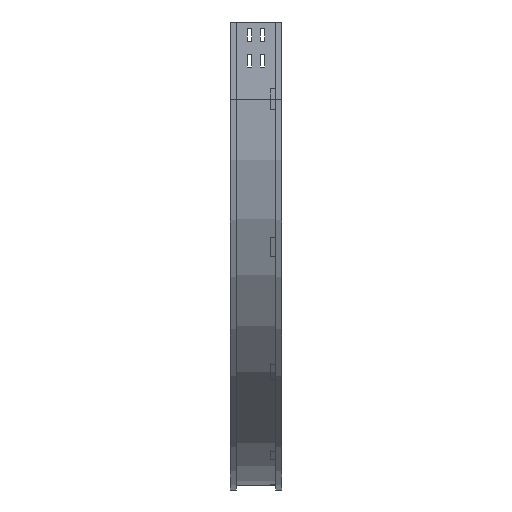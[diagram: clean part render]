
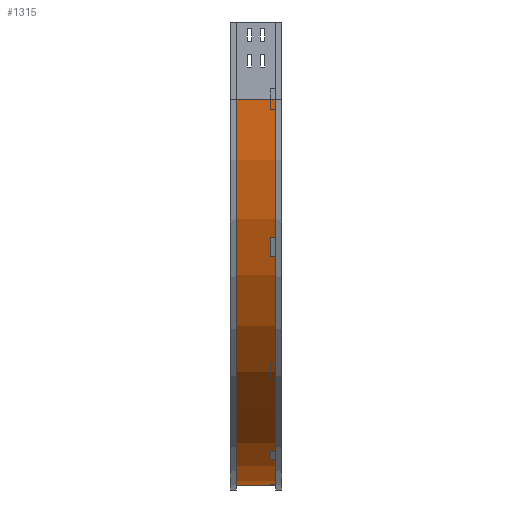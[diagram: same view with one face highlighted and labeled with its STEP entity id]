
A CAD part, left-side view. The second image highlights one B-rep face of the part: STEP entity #1315.
In plain terms, the highlighted cylindrical face has radius 750 mm (diameter 1500 mm), a partial arc.
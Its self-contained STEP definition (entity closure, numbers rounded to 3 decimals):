
#2 = CARTESIAN_POINT ( 'NONE',  ( 759., 12., -900. ) ) ;
#32 = CIRCLE ( 'NONE', #1337, 750. ) ;
#170 = CIRCLE ( 'NONE', #4268, 750. ) ;
#386 = DIRECTION ( 'NONE',  ( 0., -1., 0. ) ) ;
#658 = CARTESIAN_POINT ( 'NONE',  ( 759., 88., -900. ) ) ;
#823 = FACE_OUTER_BOUND ( 'NONE', #1682, .T. ) ;
#966 = ORIENTED_EDGE ( 'NONE', *, *, #1471, .F. ) ;
#1080 = CARTESIAN_POINT ( 'NONE',  ( 759., 12., -900. ) ) ;
#1283 = LINE ( 'NONE', #2681, #4124 ) ;
#1315 = ADVANCED_FACE ( 'NONE', ( #823 ), #1619, .T. ) ;
#1337 = AXIS2_PLACEMENT_3D ( 'NONE', #3323, #1508, #3673 ) ;
#1471 = EDGE_CURVE ( 'NONE', #3747, #4291, #170, .T. ) ;
#1508 = DIRECTION ( 'NONE',  ( 0., -1., 0. ) ) ;
#1593 = DIRECTION ( 'NONE',  ( 0., 0., -1. ) ) ;
#1619 = CYLINDRICAL_SURFACE ( 'NONE', #3918, 750. ) ;
#1653 = CARTESIAN_POINT ( 'NONE',  ( 9., 12., -150. ) ) ;
#1682 = EDGE_LOOP ( 'NONE', ( #966, #2913, #1817, #4229 ) ) ;
#1748 = EDGE_CURVE ( 'NONE', #3289, #3747, #1283, .T. ) ;
#1813 = DIRECTION ( 'NONE',  ( -1., 0., 0. ) ) ;
#1817 = ORIENTED_EDGE ( 'NONE', *, *, #2050, .T. ) ;
#1870 = VECTOR ( 'NONE', #386, 1000. ) ;
#1901 = CARTESIAN_POINT ( 'NONE',  ( 9., 88., -150. ) ) ;
#1993 = DIRECTION ( 'NONE',  ( 0., -1., 0. ) ) ;
#2050 = EDGE_CURVE ( 'NONE', #3289, #2778, #32, .T. ) ;
#2396 = EDGE_CURVE ( 'NONE', #2778, #4291, #4509, .T. ) ;
#2534 = CARTESIAN_POINT ( 'NONE',  ( 759., 12., -150. ) ) ;
#2681 = CARTESIAN_POINT ( 'NONE',  ( 9., 12., -150. ) ) ;
#2778 = VERTEX_POINT ( 'NONE', #658 ) ;
#2913 = ORIENTED_EDGE ( 'NONE', *, *, #1748, .F. ) ;
#3289 = VERTEX_POINT ( 'NONE', #1901 ) ;
#3323 = CARTESIAN_POINT ( 'NONE',  ( 759., 88., -150. ) ) ;
#3673 = DIRECTION ( 'NONE',  ( -1., 0., 0. ) ) ;
#3747 = VERTEX_POINT ( 'NONE', #1653 ) ;
#3863 = DIRECTION ( 'NONE',  ( 0., -1., 0. ) ) ;
#3918 = AXIS2_PLACEMENT_3D ( 'NONE', #4024, #4407, #1593 ) ;
#4024 = CARTESIAN_POINT ( 'NONE',  ( 759., 0., -150. ) ) ;
#4124 = VECTOR ( 'NONE', #1993, 1000. ) ;
#4229 = ORIENTED_EDGE ( 'NONE', *, *, #2396, .T. ) ;
#4268 = AXIS2_PLACEMENT_3D ( 'NONE', #2534, #3863, #1813 ) ;
#4291 = VERTEX_POINT ( 'NONE', #1080 ) ;
#4407 = DIRECTION ( 'NONE',  ( 0., -1., 0. ) ) ;
#4509 = LINE ( 'NONE', #2, #1870 ) ;
